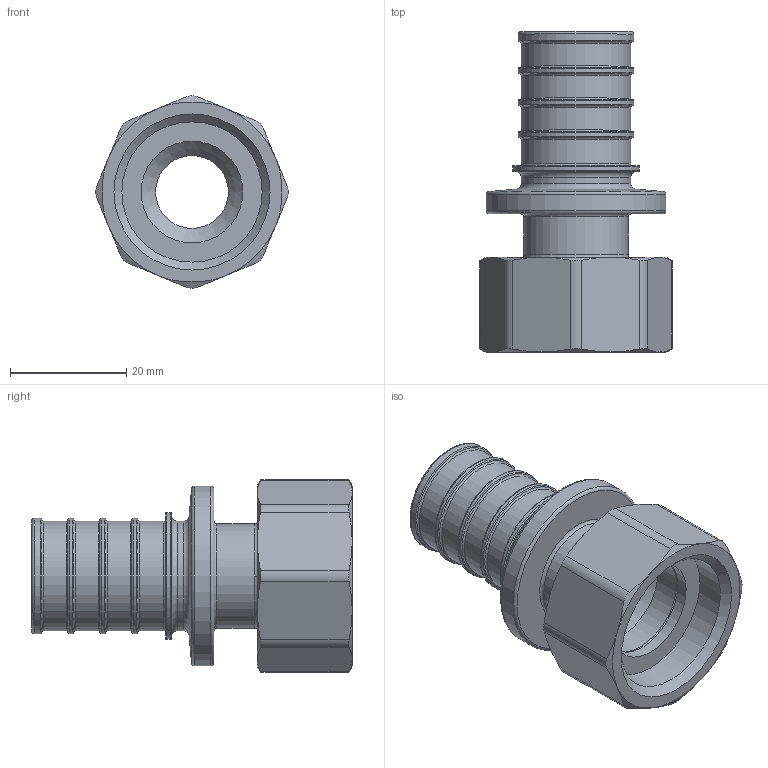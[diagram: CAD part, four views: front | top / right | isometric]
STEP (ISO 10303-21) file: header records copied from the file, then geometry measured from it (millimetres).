
FILE_DESCRIPTION(('STEP AP203'), '1');
FILE_NAME('ﾂﾐ.302612.019.000 ﾑﾁ - VTm.422.G.002505 ﾔ頸. - 裝', '2024-01-23T13:28:59', ('Boss'), (''), 'C3D Converter', 'C3D Toolkit', '');
FILE_SCHEMA(('CONFIG_CONTROL_DESIGN'));
Length unit declared in the file: millimetre
Products named in the file (5): ВР.302612.019.000 СБ; ВР.714651.011; ВР.305323.016; ВР.753612.003; ВР.758421.031
Assembly tree (4 placements, depth 2):
  ВР.302612.019.000 СБ
    ВР.714651.011
    ВР.305323.016
    ВР.753612.003
    ВР.758421.031
Bounding box: 33.14 x 55.07 x 33.14 mm (x, y, z)
Volume: 13672.6 mm3; surface area: 11644.8 mm2
Topology: 4 solids, 4 shells, 110 faces, 224 edges, 128 vertices
Faces by surface type: torus 32, cylinder 30, cone 26, plane 22
Full cylindrical faces by diameter (mm): 12.5 x1, 15 x1, 17.5 x2, 17.9 x1, 18.8 x5, 19.8 x4, 21.4 x1, 21.8 x1, 24.118 x1, 24.2 x3, 26.7 x1, 30.9 x1
Entity records: 3823 total; most frequent: CARTESIAN_POINT 1628, DIRECTION 422, ORIENTED_EDGE 308, AXIS2_PLACEMENT_3D 203, EDGE_LOOP 177, EDGE_CURVE 154, VERTEX_POINT 123, FACE_OUTER_BOUND 112
